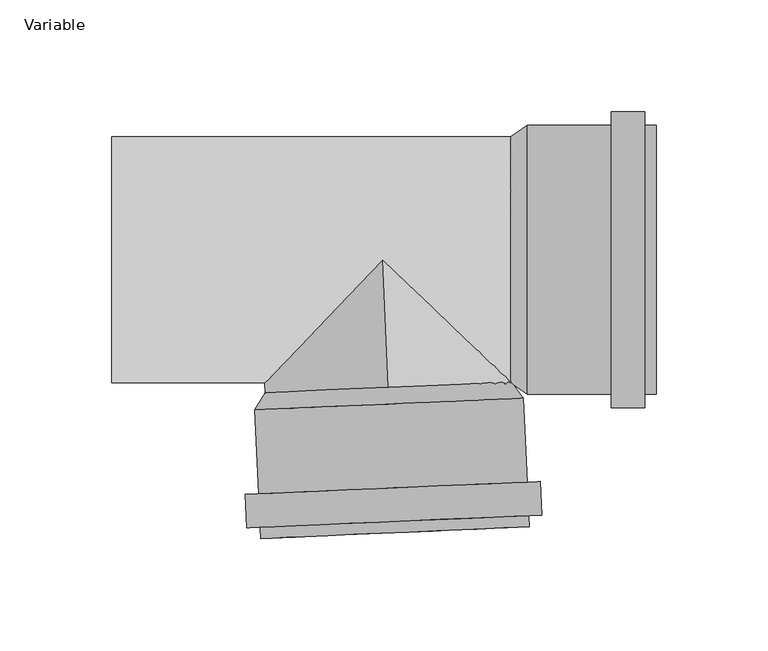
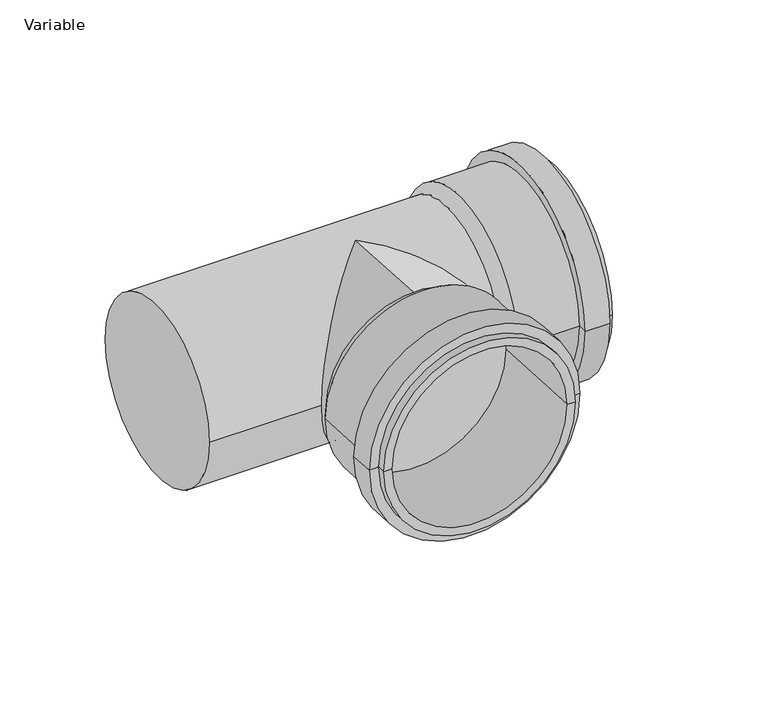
"""IFC4 building model written with IfcOpenShell, lengths in millimetres: pipe fitting geometry, AliaxisFR_Friaphon_Branch_FR : Variable."""

import ifcopenshell
import ifcopenshell.guid

model = None  # the IFC model being written
_history = None  # IfcOwnerHistory: only IFC2X3 demands one
_inside = {}  # id of a spatial element -> (the spatial element, [elements in it])
_under = {}  # id of a project, library or spatial element -> (it, [spatial elements below it])
_declared = {}  # id of a project -> (the project, [libraries it declares])
_typed = {}  # id of a type object -> (the type object, [elements of that type])
_made_of = {}  # id of a material, layer set ... -> (it, [elements and type objects made of it])


def new_model(schema):
    """Start an empty IFC model of exactly this schema.

    Asked for "IFC4X3", IfcOpenShell would pick the latest addendum, in which some entities
    have other attributes; the version numbers below select the first issue.
    IFC2X3 requires an IfcOwnerHistory on every rooted entity: one is made here for all.
    """
    global model, _history
    if schema == "IFC4X3":
        model = ifcopenshell.file(schema_version=(4, 3, 0, 0))
    else:
        model = ifcopenshell.file(schema=schema)
    _inside.clear()
    _under.clear()
    _declared.clear()
    _typed.clear()
    _made_of.clear()
    _history = None
    if model.schema == "IFC2X3":
        org = make("IfcOrganization", Name="unknown")
        user = make(
            "IfcPersonAndOrganization",
            ThePerson=make("IfcPerson", FamilyName="unknown"),
            TheOrganization=org,
        )
        app = make(
            "IfcApplication",
            ApplicationDeveloper=org,
            Version="unknown",
            ApplicationFullName="unknown",
            ApplicationIdentifier="unknown",
        )
        _history = make(
            "IfcOwnerHistory",
            OwningUser=user,
            OwningApplication=app,
            ChangeAction="ADDED",
            CreationDate=0,
        )
    return model


def make(cls, **values):
    """One entity of the class cls with the attributes given. An attribute that is None is left unset."""
    return model.create_entity(
        cls, **{name: value for name, value in values.items() if value is not None}
    )


def rooted(cls, **values):
    """An entity with a GlobalId (a new one), such as an element, a storey or a relation."""
    return make(cls, GlobalId=ifcopenshell.guid.new(), OwnerHistory=_history, **values)


def si_unit(unit_type, name, prefix=None):
    """IfcSIUnit, for example si_unit("LENGTHUNIT", "METRE", prefix="MILLI")."""
    return make("IfcSIUnit", UnitType=unit_type, Prefix=prefix, Name=name)


def assignment(units):
    """IfcUnitAssignment: the units of a project."""
    return None if units is None else make("IfcUnitAssignment", Units=units)


def point(xyz):
    """IfcCartesianPoint."""
    return None if xyz is None else make("IfcCartesianPoint", Coordinates=xyz)


def direction(xyz):
    """IfcDirection."""
    return None if xyz is None else make("IfcDirection", DirectionRatios=xyz)


def frame(location, z_axis=None, x_axis=None):
    """IfcAxis2Placement3D, a coordinate frame: its origin and axes. An axis left out is left unset."""
    return make(
        "IfcAxis2Placement3D",
        Location=point(location),
        Axis=direction(z_axis),
        RefDirection=direction(x_axis),
    )


def origin():
    """The frame at (0, 0, 0) with its axes left unset."""
    return frame((0.0, 0.0, 0.0))


def place(relative_to, where):
    """IfcLocalPlacement: puts the frame where relative to a parent placement (None: the world)."""
    return make(
        "IfcLocalPlacement", PlacementRelTo=relative_to, RelativePlacement=where
    )


def context(
    kind, dimensions, precision=None, world=None, true_north=None, identifier=None
):
    """IfcGeometricRepresentationContext, for example the 3D "Model" context."""
    return make(
        "IfcGeometricRepresentationContext",
        ContextIdentifier=identifier,
        ContextType=kind,
        CoordinateSpaceDimension=dimensions,
        Precision=precision,
        WorldCoordinateSystem=world,
        TrueNorth=true_north,
    )


def project(units=None, contexts=None):
    """IfcProject with its units and contexts."""
    return rooted(
        "IfcProject",
        Name="project",
        RepresentationContexts=contexts,
        UnitsInContext=assignment(units),
    )


def spatial(cls, under=None, at=None, **own):
    """A site, building, storey or space (cls), placed at a placement, below another one or the project."""
    s = rooted(cls, ObjectPlacement=at, **own)
    if under is not None:
        _under.setdefault(under.id(), (under, []))[1].append(s)
    return s


def polyline(points):
    """IfcPolyline through the points."""
    return make("IfcPolyline", Points=[point(p) for p in points])


def circle_curve(where, radius):
    """IfcCircle in the frame where."""
    return make("IfcCircle", Position=where, Radius=radius)


def ellipse_curve(where, semi_axis1, semi_axis2):
    """IfcEllipse in the frame where."""
    return make(
        "IfcEllipse", Position=where, SemiAxis1=semi_axis1, SemiAxis2=semi_axis2
    )


def shape(context_of_items, identifier, shape_type, items):
    """IfcShapeRepresentation: the items that make up one representation, for example the "Body"."""
    return make(
        "IfcShapeRepresentation",
        ContextOfItems=context_of_items,
        RepresentationIdentifier=identifier,
        RepresentationType=shape_type,
        Items=items,
    )


def source(mapping_origin, context_of_items, identifier, shape_type, items):
    """IfcRepresentationMap: a shape defined once, which mapped items show again and again."""
    return make(
        "IfcRepresentationMap",
        MappingOrigin=mapping_origin,
        MappedRepresentation=shape(context_of_items, identifier, shape_type, items),
    )


def transform(
    local_origin,
    x_axis=None,
    y_axis=None,
    z_axis=None,
    scale=None,
    scale2=None,
    scale3=None,
    uniform=True,
):
    """IfcCartesianTransformationOperator3D, or its non-uniform kind. x_axis, y_axis, z_axis: its Axis1, 2, 3."""
    if uniform:
        return make(
            "IfcCartesianTransformationOperator3D",
            Axis1=direction(x_axis),
            Axis2=direction(y_axis),
            LocalOrigin=point(local_origin),
            Scale=scale,
            Axis3=direction(z_axis),
        )
    return make(
        "IfcCartesianTransformationOperator3DnonUniform",
        Axis1=direction(x_axis),
        Axis2=direction(y_axis),
        LocalOrigin=point(local_origin),
        Scale=scale,
        Axis3=direction(z_axis),
        Scale2=scale2,
        Scale3=scale3,
    )


def mapped(mapping_source, mapping_target):
    """IfcMappedItem: shows the shape of a source again, moved by a transform."""
    return make(
        "IfcMappedItem", MappingSource=mapping_source, MappingTarget=mapping_target
    )


def made_of(thing, what):
    """Note that an element or type object is made of a material, layer set ...; save() writes the relation."""
    if what is not None:
        _made_of.setdefault(what.id(), (what, []))[1].append(thing)
    return thing


def element(
    cls,
    number,
    at=None,
    inside=None,
    cuts=None,
    type_object=None,
    material=None,
    context=None,
    identifier="Body",
    shape_type=None,
    held_by="IfcProductDefinitionShape",
    body=None,
    shapes=None,
    **own,
):
    """One element of the class cls, such as IfcWall. Its Tag is "e" and its number.

    at: its placement. inside: the storey or other place that contains it. cuts: it is an
    opening in that element (IfcRelVoidsElement). A single representation is given by context,
    identifier, shape_type and body (its items); several are given by shapes. held_by: the class
    of the entity that holds the representations. save() writes the other relations.
    """
    e = rooted(cls, Tag="e%d" % number, ObjectPlacement=at, **own)
    if body is not None:
        shapes = [shape(context, identifier, shape_type, body)]
    if shapes is not None:
        e.Representation = make(held_by, Representations=shapes)
    if inside is not None:
        _inside.setdefault(inside.id(), (inside, []))[1].append(e)
    if cuts is not None:
        rooted(
            "IfcRelVoidsElement", RelatingBuildingElement=cuts, RelatedOpeningElement=e
        )
    if type_object is not None:
        _typed.setdefault(type_object.id(), (type_object, []))[1].append(e)
    return made_of(e, material)


def aggregate(whole, parts):
    """IfcRelAggregates: a whole, such as a stair, and the parts it consists of."""
    return rooted("IfcRelAggregates", RelatingObject=whole, RelatedObjects=parts)


def save(model, path):
    """Write the relations noted so far, then the file.

    IfcRelAggregates (storeys below a building ...), IfcRelContainedInSpatialStructure (elements
    in a storey), IfcRelDefinesByType, IfcRelAssociatesMaterial and IfcRelDeclares: one each for
    every whole, place, type object, material and project.
    """
    for whole, parts in _under.values():
        aggregate(whole, parts)
    for where, things in _inside.values():
        rooted(
            "IfcRelContainedInSpatialStructure",
            RelatedElements=things,
            RelatingStructure=where,
        )
    for kind, things in _typed.values():
        rooted("IfcRelDefinesByType", RelatedObjects=things, RelatingType=kind)
    for what, things in _made_of.values():
        rooted("IfcRelAssociatesMaterial", RelatedObjects=things, RelatingMaterial=what)
    for by, libraries in _declared.values():
        rooted("IfcRelDeclares", RelatingContext=by, RelatedDefinitions=libraries)
    model.write(path)


def plane_surface(at):
    """IfcPlane: the flat surface through the origin of the frame at, square to its z axis."""
    return make("IfcPlane", Position=at)


def cylinder_surface(at, radius):
    """IfcCylindricalSurface: all points at the distance radius from the z axis of the frame at."""
    return make("IfcCylindricalSurface", Position=at, Radius=radius)


def revolved_surface(curve, axis_point, axis_direction):
    """IfcSurfaceOfRevolution: the curve turned about the line through axis_point along axis_direction."""
    return make(
        "IfcSurfaceOfRevolution",
        SweptCurve=make("IfcArbitraryOpenProfileDef", ProfileType="CURVE", Curve=curve),
        AxisPosition=make("IfcAxis1Placement", Location=point(axis_point), Axis=direction(axis_direction)),
    )


def advanced_brep(points, edges, surfaces, faces):
    """IfcAdvancedBrep: a solid bounded by faces that lie on surfaces and meet in shared edges.

    An edge is (start, end): straight between two places in points (the first is 0);
    or (start, end, curve); or (start, end, curve, False) where it runs against its curve.
    A face is (place in surfaces, loops), or (place, loops, False) where it looks against
    its surface's normal. A loop lists edges by number (the first is 1), with a minus sign
    where the edge is run from its end to its start. The first loop is the outer one.
    """
    corners = [point(p) for p in points]
    vertices = [make("IfcVertexPoint", VertexGeometry=c) for c in corners]
    made = []
    for start, end, *more in edges:
        made.append(
            make(
                "IfcEdgeCurve",
                EdgeStart=vertices[start],
                EdgeEnd=vertices[end],
                EdgeGeometry=more[0] if more else make("IfcPolyline", Points=[corners[start], corners[end]]),
                SameSense=more[1] if len(more) > 1 else True,
            )
        )
    hull = []
    for where, loops, *sense in faces:
        bounds = []
        for j, loop in enumerate(loops):
            ring = [make("IfcOrientedEdge", EdgeElement=made[abs(k) - 1], Orientation=k > 0) for k in loop]
            bounds.append(
                make(
                    "IfcFaceOuterBound" if j == 0 else "IfcFaceBound",
                    Bound=make("IfcEdgeLoop", EdgeList=ring),
                    Orientation=True,
                )
            )
        hull.append(make("IfcAdvancedFace", Bounds=bounds, FaceSurface=surfaces[where], SameSense=sense[0] if sense else True))
    return make("IfcAdvancedBrep", Outer=make("IfcClosedShell", CfsFaces=hull))


def variable_81fd169b(model_context):
    return source(origin(), model_context, "Body", "AdvancedBrep", [
        advanced_brep(
        [(-54.621328, -124.5010463, 0.0), (65.2644586, -119.2667198, 0.0), (60.2692174, -119.4848167, 0.0), (-49.6260869, -124.2829493, 0.0), (-61.4880051, -104.7817982, 0.0), (70.3863601, -99.024039, 0.0), (71.0406509, -114.0097624, 0.0), (-60.8337143, -119.7675215, 0.0), (-55.4937158, -104.5200818, 0.0), (64.3920708, -99.2857554, 0.0), (-57.1294428, -67.0557735, 0.0), (62.7563438, -61.8214471, 0.0), (57.4339573, -54.5466823, 0.0), (-52.4613471, -59.3448149, 0.0), (-54.839425, -119.5058052, 0.0), (65.0463616, -114.2714787, 0.0)],
        [
            (0, 1, circle_curve(frame((5.3215653, -121.883883, 0.0), z_axis=(0.04361938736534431, -0.9990482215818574, 0.0), x_axis=(0.9990482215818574, 0.04361938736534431, 0.0)), 60.0)),
            (1, 2),
            (2, 3, circle_curve(frame((5.3215653, -121.883883, 0.0), z_axis=(-0.04361938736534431, 0.9990482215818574, 0.0), x_axis=(0.9990482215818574, 0.04361938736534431, 0.0)), 55.0)),
            (3, 0),
            (1, 0, circle_curve(frame((5.3215653, -121.883883, 0.0), z_axis=(0.04361938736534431, -0.9990482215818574, 0.0), x_axis=(0.9990482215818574, 0.04361938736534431, 0.0)), 60.0)),
            (3, 2, circle_curve(frame((5.3215653, -121.883883, 0.0), z_axis=(-0.04361938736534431, 0.9990482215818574, 0.0), x_axis=(0.9990482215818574, 0.04361938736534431, 0.0)), 55.0)),
            (4, 5, circle_curve(frame((4.4491775, -101.9029186, 0.0), z_axis=(0.04361938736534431, -0.9990482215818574, 0.0), x_axis=(0.9990482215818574, 0.04361938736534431, 0.0)), 66.0)),
            (5, 6),
            (6, 7, circle_curve(frame((5.1034683, -116.8886419, 0.0), z_axis=(-0.04361938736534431, 0.9990482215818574, 0.0), x_axis=(0.9990482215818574, 0.04361938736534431, 0.0)), 66.0)),
            (7, 4),
            (5, 4, circle_curve(frame((4.4491775, -101.9029186, 0.0), z_axis=(0.04361938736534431, -0.9990482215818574, 0.0), x_axis=(0.9990482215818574, 0.04361938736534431, 0.0)), 66.0)),
            (7, 6, circle_curve(frame((5.1034683, -116.8886419, 0.0), z_axis=(-0.04361938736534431, 0.9990482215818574, 0.0), x_axis=(0.9990482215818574, 0.04361938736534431, 0.0)), 66.0)),
            (8, 9, circle_curve(frame((4.4491775, -101.9029186, 0.0), z_axis=(0.04361938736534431, -0.9990482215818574, 0.0), x_axis=(0.9990482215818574, 0.04361938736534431, 0.0)), 60.0)),
            (9, 5),
            (4, 8),
            (9, 8, circle_curve(frame((4.4491775, -101.9029186, 0.0), z_axis=(0.04361938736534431, -0.9990482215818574, 0.0), x_axis=(0.9990482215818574, 0.04361938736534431, 0.0)), 60.0)),
            (10, 11, circle_curve(frame((2.8134505, -64.4386103, 0.0), z_axis=(0.04361938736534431, -0.9990482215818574, 0.0), x_axis=(0.9990482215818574, 0.04361938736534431, 0.0)), 60.0)),
            (11, 9),
            (8, 10),
            (11, 10, circle_curve(frame((2.8134505, -64.4386103, 0.0), z_axis=(0.04361938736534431, -0.9990482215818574, 0.0), x_axis=(0.9990482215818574, 0.04361938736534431, 0.0)), 60.0)),
            (2, 12),
            (12, 13, circle_curve(frame((2.4863051, -56.9457486, 0.0), z_axis=(-0.04361938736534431, 0.9990482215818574, 0.0), x_axis=(0.9990482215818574, 0.04361938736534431, 0.0)), 55.0)),
            (13, 3),
            (13, 12, circle_curve(frame((2.4863051, -56.9457486, 0.0), z_axis=(-0.04361938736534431, 0.9990482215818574, 0.0), x_axis=(0.9990482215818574, 0.04361938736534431, 0.0)), 55.0)),
            (12, 11),
            (10, 13),
            (14, 15, circle_curve(frame((5.1034683, -116.8886419, 0.0), z_axis=(0.04361938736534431, -0.9990482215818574, 0.0), x_axis=(0.9990482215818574, 0.04361938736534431, 0.0)), 60.0)),
            (15, 1),
            (0, 14),
            (15, 14, circle_curve(frame((5.1034683, -116.8886419, 0.0), z_axis=(0.04361938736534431, -0.9990482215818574, 0.0), x_axis=(0.9990482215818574, 0.04361938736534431, 0.0)), 60.0)),
            (6, 15),
            (14, 7),
        ],
        [
            plane_surface(frame((5.3215653, -121.883883, 0.0), z_axis=(0.04361938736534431, -0.9990482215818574, 0.0), x_axis=(0.9990482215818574, 0.04361938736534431, 0.0))),
            cylinder_surface(frame((2.4863051, -56.9457486, 0.0), z_axis=(-0.04361938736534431, 0.9990482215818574, 0.0), x_axis=(0.9990482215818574, 0.04361938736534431, 0.0)), 66.0),
            plane_surface(frame((4.4491775, -101.9029186, 0.0), z_axis=(-0.04361938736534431, 0.9990482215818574, 0.0), x_axis=(0.9990482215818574, 0.04361938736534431, 0.0))),
            cylinder_surface(frame((2.4863051, -56.9457486, 0.0), z_axis=(-0.04361938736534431, 0.9990482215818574, 0.0), x_axis=(0.9990482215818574, 0.04361938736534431, 0.0)), 60.0),
            revolved_surface(polyline([(57.433957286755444, -54.5466822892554, 0.0), (60.2692174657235, -119.48481669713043, 0.0)]), (2.4863051, -56.9457486, 0.0), (-0.04361938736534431, 0.9990482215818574, 0.0)),
            revolved_surface(polyline([(62.7563438, -61.8214471, 0.0), (57.4339573, -54.5466823, 0.0)]), (2.4863051, -56.9457486, 0.0), (-0.04361938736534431, 0.9990482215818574, 0.0)),
            plane_surface(frame((5.1034683, -116.8886419, 0.0), z_axis=(0.04361938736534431, -0.9990482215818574, 0.0), x_axis=(0.9990482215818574, 0.04361938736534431, 0.0))),
        ],
        [
            (0, [[1, 2, 3, 4]]),
            (0, [[5, -4, 6, -2]]),
            (1, [[7, 8, 9, 10]]),
            (1, [[11, -10, 12, -8]]),
            (2, [[13, 14, -7, 15]]),
            (2, [[16, -15, -11, -14]]),
            (3, [[17, 18, -13, 19]]),
            (3, [[20, -19, -16, -18]]),
            (4, [[-3, 21, 22, 23]]),
            (4, [[-6, -23, 24, -21]]),
            (5, [[-22, 25, -17, 26]]),
            (5, [[-24, -26, -20, -25]]),
            (3, [[27, 28, -1, 29]]),
            (3, [[30, -29, -5, -28]]),
            (6, [[-9, 31, -27, 32]]),
            (6, [[-12, -32, -30, -31]]),
        ],
    ),
        advanced_brep(
        [(122.0, -60.0, 0.0), (122.0, 60.0, 0.0), (122.0, 55.0, 0.0), (122.0, -55.0, 0.0), (102.0, -66.0, 0.0), (102.0, 66.0, 0.0), (117.0, 66.0, 0.0), (117.0, -66.0, 0.0), (102.0, -60.0, 0.0), (102.0, 60.0, 0.0), (64.5, -60.0, 0.0), (64.5, 60.0, 0.0), (57.0, 55.0, 0.0), (57.0, -55.0, 0.0), (117.0, -60.0, 0.0), (117.0, 60.0, 0.0)],
        [
            (0, 1, circle_curve(frame((122.0, 0.0, 0.0), z_axis=(1.0, 0.0, 0.0), x_axis=(0.0, 1.0, 0.0)), 60.0)),
            (1, 2),
            (2, 3, circle_curve(frame((122.0, 0.0, 0.0), z_axis=(-1.0, 0.0, 0.0), x_axis=(0.0, 1.0, 0.0)), 55.0)),
            (3, 0),
            (1, 0, circle_curve(frame((122.0, 0.0, 0.0), z_axis=(1.0, 0.0, 0.0), x_axis=(0.0, 1.0, 0.0)), 60.0)),
            (3, 2, circle_curve(frame((122.0, 0.0, 0.0), z_axis=(-1.0, 0.0, 0.0), x_axis=(0.0, 1.0, 0.0)), 55.0)),
            (4, 5, circle_curve(frame((102.0, 0.0, 0.0), z_axis=(1.0, 0.0, 0.0), x_axis=(0.0, 1.0, 0.0)), 66.0)),
            (5, 6),
            (6, 7, circle_curve(frame((117.0, 0.0, 0.0), z_axis=(-1.0, 0.0, 0.0), x_axis=(0.0, 1.0, 0.0)), 66.0)),
            (7, 4),
            (5, 4, circle_curve(frame((102.0, 0.0, 0.0), z_axis=(1.0, 0.0, 0.0), x_axis=(0.0, 1.0, 0.0)), 66.0)),
            (7, 6, circle_curve(frame((117.0, 0.0, 0.0), z_axis=(-1.0, 0.0, 0.0), x_axis=(0.0, 1.0, 0.0)), 66.0)),
            (8, 9, circle_curve(frame((102.0, 0.0, 0.0), z_axis=(1.0, 0.0, 0.0), x_axis=(0.0, 1.0, 0.0)), 60.0)),
            (9, 5),
            (4, 8),
            (9, 8, circle_curve(frame((102.0, 0.0, 0.0), z_axis=(1.0, 0.0, 0.0), x_axis=(0.0, 1.0, 0.0)), 60.0)),
            (10, 11, circle_curve(frame((64.5, 0.0, 0.0), z_axis=(1.0, 0.0, 0.0), x_axis=(0.0, 1.0, 0.0)), 60.0)),
            (11, 9),
            (8, 10),
            (11, 10, circle_curve(frame((64.5, 0.0, 0.0), z_axis=(1.0, 0.0, 0.0), x_axis=(0.0, 1.0, 0.0)), 60.0)),
            (2, 12),
            (12, 13, circle_curve(frame((57.0, 0.0, 0.0), z_axis=(-1.0, 0.0, 0.0), x_axis=(0.0, 1.0, 0.0)), 55.0)),
            (13, 3),
            (13, 12, circle_curve(frame((57.0, 0.0, 0.0), z_axis=(-1.0, 0.0, 0.0), x_axis=(0.0, 1.0, 0.0)), 55.0)),
            (12, 11),
            (10, 13),
            (14, 15, circle_curve(frame((117.0, 0.0, 0.0), z_axis=(1.0, 0.0, 0.0), x_axis=(0.0, 1.0, 0.0)), 60.0)),
            (15, 1),
            (0, 14),
            (15, 14, circle_curve(frame((117.0, 0.0, 0.0), z_axis=(1.0, 0.0, 0.0), x_axis=(0.0, 1.0, 0.0)), 60.0)),
            (6, 15),
            (14, 7),
        ],
        [
            plane_surface(frame((122.0, 0.0, 0.0), z_axis=(1.0, 0.0, 0.0), x_axis=(0.0, 1.0, 0.0))),
            cylinder_surface(frame((57.0, 0.0, 0.0), z_axis=(-1.0, 0.0, 0.0), x_axis=(0.0, 1.0, 0.0)), 66.0),
            plane_surface(frame((102.0, 0.0, 0.0), z_axis=(-1.0, 0.0, 0.0), x_axis=(0.0, 1.0, 0.0))),
            cylinder_surface(frame((57.0, 0.0, 0.0), z_axis=(-1.0, 0.0, 0.0), x_axis=(0.0, 1.0, 0.0)), 60.0),
            revolved_surface(polyline([(57.0, 55.0, 0.0), (122.0, 55.0, 0.0)]), (57.0, 0.0, 0.0), (-1.0, 0.0, 0.0)),
            revolved_surface(polyline([(64.5, 60.0, 0.0), (57.0, 55.0, 0.0)]), (57.0, 0.0, 0.0), (-1.0, 0.0, 0.0)),
            plane_surface(frame((117.0, 0.0, 0.0), z_axis=(1.0, 0.0, 0.0), x_axis=(0.0, 1.0, 0.0))),
        ],
        [
            (0, [[1, 2, 3, 4]]),
            (0, [[5, -4, 6, -2]]),
            (1, [[7, 8, 9, 10]]),
            (1, [[11, -10, 12, -8]]),
            (2, [[13, 14, -7, 15]]),
            (2, [[16, -15, -11, -14]]),
            (3, [[17, 18, -13, 19]]),
            (3, [[20, -19, -16, -18]]),
            (4, [[-3, 21, 22, 23]]),
            (4, [[-6, -23, 24, -21]]),
            (5, [[-22, 25, -17, 26]]),
            (5, [[-24, -26, -20, -25]]),
            (3, [[27, 28, -1, 29]]),
            (3, [[30, -29, -5, -28]]),
            (6, [[-9, 31, -27, 32]]),
            (6, [[-12, -32, -30, -31]]),
        ],
    ),
        advanced_brep(
        [(62.0, -55.0, 0.0), (62.0, 55.0, 0.0), (-121.0, -55.0, 0.0), (-121.0, 55.0, 0.0), (57.4537495, -55.0, 0.0), (0.0, 0.0, -55.0), (-52.6510458, -55.0, 0.0), (0.0, 0.0, 55.0), (2.704402, -61.9409897, -55.0), (2.704402, -61.9409897, 55.0)],
        [
            (0, 1, circle_curve(frame((62.0, 0.0, 0.0), z_axis=(1.0, 0.0, 0.0), x_axis=(0.0, 1.0, 0.0)), 55.0)),
            (1, 0, circle_curve(frame((62.0, 0.0, 0.0), z_axis=(1.0, 0.0, 0.0), x_axis=(0.0, 1.0, 0.0)), 55.0)),
            (2, 3, circle_curve(frame((-121.0, 0.0, 0.0), z_axis=(-1.0, 0.0, 0.0), x_axis=(0.0, 1.0, 0.0)), 55.0)),
            (3, 2, circle_curve(frame((-121.0, 0.0, 0.0), z_axis=(-1.0, 0.0, 0.0), x_axis=(0.0, 1.0, 0.0)), 55.0)),
            (0, 4),
            (4, 5, ellipse_curve(frame((0.0, 0.0, 0.0), z_axis=(0.6915130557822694, 0.7223639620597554, 0.0), x_axis=(0.7223639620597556, -0.6915130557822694, 0.0)), 79.5357362, 55.0)),
            (5, 6, ellipse_curve(frame((0.0, 0.0, 0.0), z_axis=(-0.7223639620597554, 0.6915130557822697, 0.0), x_axis=(0.6915130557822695, 0.7223639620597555, 0.0)), 76.1389035, 55.0)),
            (6, 2),
            (3, 1),
            (6, 7, ellipse_curve(frame((0.0, 0.0, 0.0), z_axis=(-0.7223639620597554, 0.6915130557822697, 0.0), x_axis=(0.6915130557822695, 0.7223639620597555, 0.0)), 76.1389035, 55.0)),
            (7, 4, ellipse_curve(frame((0.0, 0.0, 0.0), z_axis=(0.6915130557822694, 0.7223639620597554, 0.0), x_axis=(0.7223639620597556, -0.6915130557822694, 0.0)), 79.5357362, 55.0)),
            (8, 9, circle_curve(frame((2.704402, -61.9409897, 0.0), z_axis=(0.04361938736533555, -0.9990482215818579, 0.0), x_axis=(0.0, 0.0, 1.0)), 55.0)),
            (9, 8, circle_curve(frame((2.704402, -61.9409897, 0.0), z_axis=(0.04361938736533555, -0.9990482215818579, 0.0), x_axis=(0.0, 0.0, 1.0)), 55.0)),
            (8, 5),
            (7, 9),
        ],
        [
            plane_surface(frame((62.0, 55.0, 0.0), z_axis=(1.0, 0.0, 0.0), x_axis=(0.0, 0.0, 1.0))),
            plane_surface(frame((-121.0, 55.0, 0.0), z_axis=(-1.0, 0.0, 0.0), x_axis=(0.0, 0.0, -1.0))),
            cylinder_surface(frame((-121.0, 0.0, 0.0), z_axis=(1.0, 0.0, 0.0), x_axis=(0.0, 1.0, 0.0)), 55.0),
            plane_surface(frame((2.704402, -61.9409897, 55.0), z_axis=(0.04361938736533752, -0.9990482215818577, 0.0), x_axis=(-0.9990482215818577, -0.04361938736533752, 0.0))),
            cylinder_surface(frame((2.704402, -61.9409897, 0.0), z_axis=(-0.04361938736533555, 0.9990482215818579, 0.0), x_axis=(0.0, 0.0, 1.0)), 55.0),
        ],
        [
            (0, [[1, 2]]),
            (1, [[3, 4]]),
            (2, [[-1, 5, 6, 7, 8, -4, 9]]),
            (2, [[-2, -9, -3, -8, 10, 11, -5]]),
            (3, [[12, 13]]),
            (4, [[-12, 14, -6, -11, 15]]),
            (4, [[-13, -15, -10, -7, -14]]),
        ],
    ),
    ])


if __name__ == "__main__":
    model = new_model("IFC4")
    model_context = context("Model", 3, world=origin())
    ifc_project = project(units=[si_unit("LENGTHUNIT", "METRE", prefix="MILLI")], contexts=[model_context])
    site = spatial("IfcSite", under=ifc_project)
    building = spatial("IfcBuilding", under=site)
    placement = place(None, origin())
    variable_shape = variable_81fd169b(model_context)
    element("IfcPipeFitting", 1, ObjectType="AliaxisFR_Friaphon_Branch_FR : Variable", at=placement, inside=building, context=model_context, shape_type="MappedRepresentation", body=[
        mapped(variable_shape, transform((0.0, 0.0, 0.0), x_axis=(1.0, 0.0, 0.0), y_axis=(0.0, 1.0, 0.0), z_axis=(0.0, 0.0, 1.0))),
    ])
    save(model, "model.ifc")
